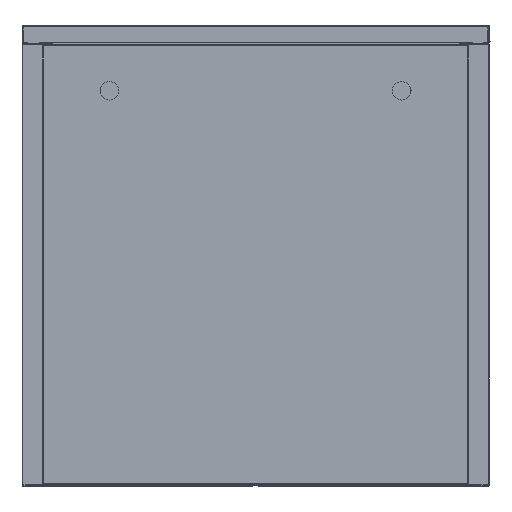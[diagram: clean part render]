
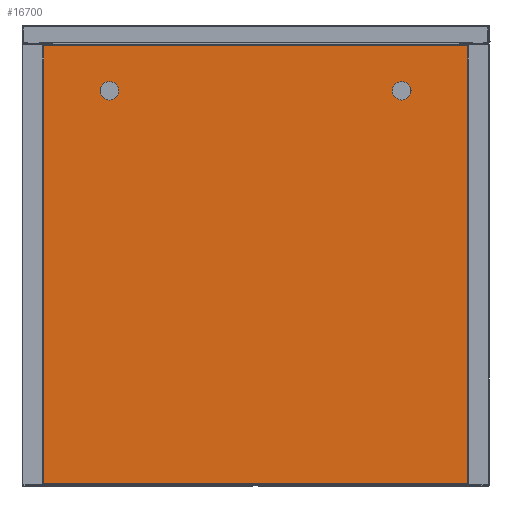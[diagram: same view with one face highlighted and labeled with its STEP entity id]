
A CAD part, front view. The second image highlights one B-rep face of the part: STEP entity #16700.
In plain terms, the highlighted planar face has unit normal (0, -1, 0) as drawn and (0, 0, 1) by its records, which use the part's own axes.
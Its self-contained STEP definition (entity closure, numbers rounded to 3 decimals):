
#429 = DIRECTION ( 'NONE',  ( 1., 0., 0. ) ) ;
#716 = CARTESIAN_POINT ( 'NONE',  ( -277.4, 262.2, 0. ) ) ;
#1398 = VECTOR ( 'NONE', #429, 1000. ) ;
#1862 = DIRECTION ( 'NONE',  ( 1., 0., 0. ) ) ;
#2471 = VERTEX_POINT ( 'NONE', #49331 ) ;
#2530 = VECTOR ( 'NONE', #26071, 1000. ) ;
#4485 = DIRECTION ( 'NONE',  ( 1., 0., 0. ) ) ;
#4988 = CARTESIAN_POINT ( 'NONE',  ( -261.4, -262.2, 0. ) ) ;
#5727 = ORIENTED_EDGE ( 'NONE', *, *, #15194, .F. ) ;
#6216 = CARTESIAN_POINT ( 'NONE',  ( 277.4, -262.2, 0. ) ) ;
#6903 = LINE ( 'NONE', #31326, #17475 ) ;
#7244 = DIRECTION ( 'NONE',  ( 1., 0., 0. ) ) ;
#7617 = DIRECTION ( 'NONE',  ( 0., 0., 1. ) ) ;
#8067 = EDGE_LOOP ( 'NONE', ( #30995, #5727 ) ) ;
#9668 = VERTEX_POINT ( 'NONE', #6216 ) ;
#11191 = CIRCLE ( 'NONE', #18530, 11.15 ) ;
#11476 = EDGE_CURVE ( 'NONE', #46033, #41607, #30301, .T. ) ;
#11621 = CARTESIAN_POINT ( 'NONE',  ( -261.4, -262.2, 0. ) ) ;
#11845 = FACE_OUTER_BOUND ( 'NONE', #13466, .T. ) ;
#12037 = ORIENTED_EDGE ( 'NONE', *, *, #13154, .T. ) ;
#12166 = LINE ( 'NONE', #26703, #13556 ) ;
#12169 = PLANE ( 'NONE',  #61127 ) ;
#12451 = VERTEX_POINT ( 'NONE', #57471 ) ;
#12862 = CARTESIAN_POINT ( 'NONE',  ( 174.65, 207.7, 0. ) ) ;
#12989 = VECTOR ( 'NONE', #39321, 1000. ) ;
#13154 = EDGE_CURVE ( 'NONE', #12451, #9668, #12166, .T. ) ;
#13414 = AXIS2_PLACEMENT_3D ( 'NONE', #27178, #62718, #37689 ) ;
#13466 = EDGE_LOOP ( 'NONE', ( #19712, #30887, #42402, #40246, #64476, #41300, #29171, #12037 ) ) ;
#13556 = VECTOR ( 'NONE', #56669, 1000. ) ;
#15194 = EDGE_CURVE ( 'NONE', #34007, #20561, #29537, .T. ) ;
#16228 = LINE ( 'NONE', #11621, #1398 ) ;
#16700 = ADVANCED_FACE ( 'NONE', ( #41847, #36902, #11845 ), #12169, .T. ) ;
#17475 = VECTOR ( 'NONE', #46120, 1000. ) ;
#17844 = CARTESIAN_POINT ( 'NONE',  ( -163.7, 207.7, 0. ) ) ;
#18530 = AXIS2_PLACEMENT_3D ( 'NONE', #26917, #56555, #1862 ) ;
#19262 = LINE ( 'NONE', #28852, #34204 ) ;
#19592 = EDGE_CURVE ( 'NONE', #2471, #34316, #23861, .T. ) ;
#19673 = EDGE_CURVE ( 'NONE', #63719, #12451, #16228, .T. ) ;
#19712 = ORIENTED_EDGE ( 'NONE', *, *, #25275, .T. ) ;
#20561 = VERTEX_POINT ( 'NONE', #62851 ) ;
#23104 = CARTESIAN_POINT ( 'NONE',  ( -261.4, 262.2, 0. ) ) ;
#23365 = EDGE_CURVE ( 'NONE', #34316, #63719, #6903, .T. ) ;
#23861 = LINE ( 'NONE', #29150, #12989 ) ;
#25275 = EDGE_CURVE ( 'NONE', #9668, #28961, #44962, .T. ) ;
#25765 = LINE ( 'NONE', #716, #61006 ) ;
#26071 = DIRECTION ( 'NONE',  ( -1., 0., 0. ) ) ;
#26703 = CARTESIAN_POINT ( 'NONE',  ( -277.4, -262.2, 0. ) ) ;
#26917 = CARTESIAN_POINT ( 'NONE',  ( 174.65, 207.7, 0. ) ) ;
#27178 = CARTESIAN_POINT ( 'NONE',  ( -174.85, 207.7, 0. ) ) ;
#27230 = VERTEX_POINT ( 'NONE', #23104 ) ;
#28852 = CARTESIAN_POINT ( 'NONE',  ( -277.4, 262.2, 0. ) ) ;
#28961 = VERTEX_POINT ( 'NONE', #51955 ) ;
#29150 = CARTESIAN_POINT ( 'NONE',  ( -277.4, 262.2, 0. ) ) ;
#29171 = ORIENTED_EDGE ( 'NONE', *, *, #19673, .T. ) ;
#29537 = CIRCLE ( 'NONE', #58949, 11.15 ) ;
#30048 = AXIS2_PLACEMENT_3D ( 'NONE', #65108, #40065, #4485 ) ;
#30301 = CIRCLE ( 'NONE', #13414, 11.15 ) ;
#30854 = EDGE_CURVE ( 'NONE', #27230, #2471, #25765, .T. ) ;
#30887 = ORIENTED_EDGE ( 'NONE', *, *, #54970, .T. ) ;
#30995 = ORIENTED_EDGE ( 'NONE', *, *, #57196, .F. ) ;
#31326 = CARTESIAN_POINT ( 'NONE',  ( -277.4, -262.2, 0. ) ) ;
#32301 = CARTESIAN_POINT ( 'NONE',  ( 0., 0., 0. ) ) ;
#34007 = VERTEX_POINT ( 'NONE', #38968 ) ;
#34204 = VECTOR ( 'NONE', #39355, 1000. ) ;
#34316 = VERTEX_POINT ( 'NONE', #46837 ) ;
#34344 = VERTEX_POINT ( 'NONE', #34621 ) ;
#34621 = CARTESIAN_POINT ( 'NONE',  ( 261.4, 262.2, 0. ) ) ;
#36735 = EDGE_CURVE ( 'NONE', #41607, #46033, #37364, .T. ) ;
#36902 = FACE_BOUND ( 'NONE', #59687, .T. ) ;
#37364 = CIRCLE ( 'NONE', #30048, 11.15 ) ;
#37689 = DIRECTION ( 'NONE',  ( 1., 0., 0. ) ) ;
#38968 = CARTESIAN_POINT ( 'NONE',  ( 163.5, 207.7, 0. ) ) ;
#39321 = DIRECTION ( 'NONE',  ( 0., -1., 0. ) ) ;
#39355 = DIRECTION ( 'NONE',  ( -1., 0., 0. ) ) ;
#40065 = DIRECTION ( 'NONE',  ( 0., 0., 1. ) ) ;
#40246 = ORIENTED_EDGE ( 'NONE', *, *, #30854, .T. ) ;
#41300 = ORIENTED_EDGE ( 'NONE', *, *, #23365, .T. ) ;
#41607 = VERTEX_POINT ( 'NONE', #65034 ) ;
#41713 = VECTOR ( 'NONE', #44629, 1000. ) ;
#41847 = FACE_BOUND ( 'NONE', #8067, .T. ) ;
#42050 = EDGE_CURVE ( 'NONE', #34344, #27230, #60949, .T. ) ;
#42402 = ORIENTED_EDGE ( 'NONE', *, *, #42050, .T. ) ;
#44629 = DIRECTION ( 'NONE',  ( 0., 1., 0. ) ) ;
#44962 = LINE ( 'NONE', #45612, #41713 ) ;
#45612 = CARTESIAN_POINT ( 'NONE',  ( 277.4, 262.2, 0. ) ) ;
#46033 = VERTEX_POINT ( 'NONE', #17844 ) ;
#46120 = DIRECTION ( 'NONE',  ( 1., 0., 0. ) ) ;
#46837 = CARTESIAN_POINT ( 'NONE',  ( -277.4, -262.2, 0. ) ) ;
#49101 = DIRECTION ( 'NONE',  ( 1., 0., 0. ) ) ;
#49331 = CARTESIAN_POINT ( 'NONE',  ( -277.4, 262.2, 0. ) ) ;
#51955 = CARTESIAN_POINT ( 'NONE',  ( 277.4, 262.2, 0. ) ) ;
#52355 = DIRECTION ( 'NONE',  ( 0., 0., 1. ) ) ;
#54698 = CARTESIAN_POINT ( 'NONE',  ( 261.4, 262.2, 0. ) ) ;
#54970 = EDGE_CURVE ( 'NONE', #28961, #34344, #19262, .T. ) ;
#56555 = DIRECTION ( 'NONE',  ( 0., 0., 1. ) ) ;
#56669 = DIRECTION ( 'NONE',  ( 1., 0., 0. ) ) ;
#57196 = EDGE_CURVE ( 'NONE', #20561, #34007, #11191, .T. ) ;
#57471 = CARTESIAN_POINT ( 'NONE',  ( 261.4, -262.2, 0. ) ) ;
#58524 = ORIENTED_EDGE ( 'NONE', *, *, #36735, .F. ) ;
#58949 = AXIS2_PLACEMENT_3D ( 'NONE', #12862, #7617, #49101 ) ;
#59687 = EDGE_LOOP ( 'NONE', ( #61648, #58524 ) ) ;
#60949 = LINE ( 'NONE', #54698, #2530 ) ;
#60988 = DIRECTION ( 'NONE',  ( -1., 0., 0. ) ) ;
#61006 = VECTOR ( 'NONE', #60988, 1000. ) ;
#61127 = AXIS2_PLACEMENT_3D ( 'NONE', #32301, #52355, #7244 ) ;
#61648 = ORIENTED_EDGE ( 'NONE', *, *, #11476, .F. ) ;
#62718 = DIRECTION ( 'NONE',  ( 0., 0., 1. ) ) ;
#62851 = CARTESIAN_POINT ( 'NONE',  ( 185.8, 207.7, 0. ) ) ;
#63719 = VERTEX_POINT ( 'NONE', #4988 ) ;
#64476 = ORIENTED_EDGE ( 'NONE', *, *, #19592, .T. ) ;
#65034 = CARTESIAN_POINT ( 'NONE',  ( -186., 207.7, 0. ) ) ;
#65108 = CARTESIAN_POINT ( 'NONE',  ( -174.85, 207.7, 0. ) ) ;
